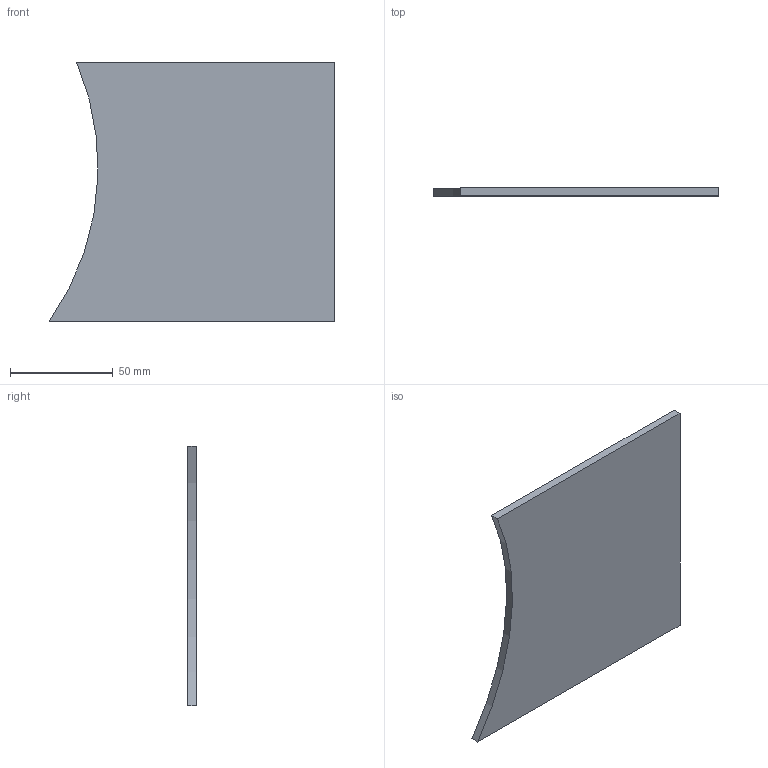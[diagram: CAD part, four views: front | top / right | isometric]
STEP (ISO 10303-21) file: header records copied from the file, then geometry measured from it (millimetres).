
FILE_DESCRIPTION(('Open CASCADE Model'),'2;1');
FILE_NAME('Open CASCADE Shape Model','2026-11-03T04:29:35',('Author'),( 'Open CASCADE'),'Open CASCADE STEP processor 7.8','Open CASCADE 7.8' ,'Unknown');
FILE_SCHEMA(('AUTOMOTIVE_DESIGN { 1 0 10303 214 1 1 1 1 }'));
Length unit declared in the file: millimetre
Products named in the file (1): Open CASCADE STEP translator 7.8 38
Bounding box: 138.82 x 4 x 126 mm (x, y, z)
Volume: 60943.8 mm3; surface area: 32562.3 mm2
Topology: 1 solids, 1 shells, 6 faces, 12 edges, 8 vertices
Faces by surface type: plane 5, cylinder 1
Entity records: 328 total; most frequent: CARTESIAN_POINT 65, DIRECTION 48, LINE 30, VECTOR 30, ORIENTED_EDGE 24, PCURVE 24, DEFINITIONAL_REPRESENTATION 24, EDGE_CURVE 12
